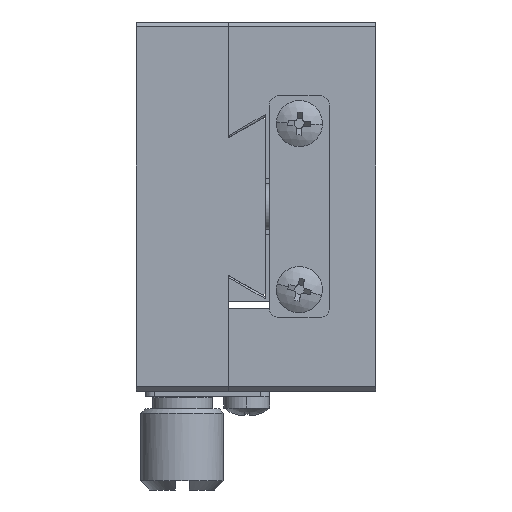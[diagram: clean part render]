
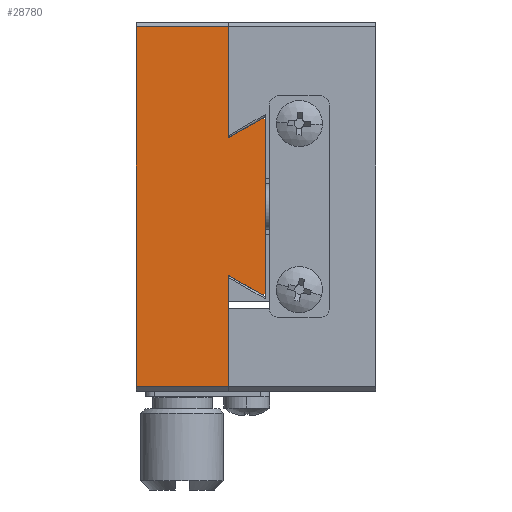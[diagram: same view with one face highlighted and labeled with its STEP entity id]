
A CAD part, left-side view. The second image highlights one B-rep face of the part: STEP entity #28780.
In plain terms, the highlighted planar face has unit normal (-1, 0, 0).
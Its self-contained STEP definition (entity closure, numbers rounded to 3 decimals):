
#38 = EDGE_LOOP ( 'NONE', ( #15353, #12433, #3700, #46786, #45221, #40383, #54166, #7454, #11179, #33708 ) ) ;
#855 = VERTEX_POINT ( 'NONE', #45563 ) ;
#1345 = AXIS2_PLACEMENT_3D ( 'NONE', #43646, #66359, #9346 ) ;
#1399 = VERTEX_POINT ( 'NONE', #36500 ) ;
#1484 = CARTESIAN_POINT ( 'NONE',  ( 0., 26., 0. ) ) ;
#2236 = LINE ( 'NONE', #25725, #58594 ) ;
#3700 = ORIENTED_EDGE ( 'NONE', *, *, #53328, .F. ) ;
#3889 = CARTESIAN_POINT ( 'NONE',  ( 0., 26., -39.5 ) ) ;
#7138 = DIRECTION ( 'NONE',  ( 0., 0.866, -0.5 ) ) ;
#7454 = ORIENTED_EDGE ( 'NONE', *, *, #70687, .T. ) ;
#9328 = CARTESIAN_POINT ( 'NONE',  ( 0., 16., -12.559 ) ) ;
#9346 = DIRECTION ( 'NONE',  ( 0., 0., -1. ) ) ;
#9637 = LINE ( 'NONE', #55119, #66531 ) ;
#10149 = LINE ( 'NONE', #32906, #33552 ) ;
#10917 = DIRECTION ( 'NONE',  ( 0., 1., 0. ) ) ;
#11179 = ORIENTED_EDGE ( 'NONE', *, *, #20682, .T. ) ;
#12433 = ORIENTED_EDGE ( 'NONE', *, *, #65455, .T. ) ;
#12521 = VECTOR ( 'NONE', #25964, 1000. ) ;
#15353 = ORIENTED_EDGE ( 'NONE', *, *, #41532, .T. ) ;
#19393 = EDGE_CURVE ( 'NONE', #27792, #19603, #69382, .T. ) ;
#19603 = VERTEX_POINT ( 'NONE', #9328 ) ;
#20132 = LINE ( 'NONE', #48860, #51183 ) ;
#20682 = EDGE_CURVE ( 'NONE', #29722, #27792, #20132, .T. ) ;
#25725 = CARTESIAN_POINT ( 'NONE',  ( 0., 12., -29.5 ) ) ;
#25964 = DIRECTION ( 'NONE',  ( 0., 0., 1. ) ) ;
#26250 = EDGE_CURVE ( 'NONE', #36056, #1399, #9637, .T. ) ;
#26627 = DIRECTION ( 'NONE',  ( 0., -1., 0. ) ) ;
#27137 = EDGE_CURVE ( 'NONE', #855, #60987, #32229, .T. ) ;
#27792 = VERTEX_POINT ( 'NONE', #47576 ) ;
#28714 = VECTOR ( 'NONE', #44731, 1000. ) ;
#28780 = ADVANCED_FACE ( 'NONE', ( #65630 ), #60075, .F. ) ;
#29722 = VERTEX_POINT ( 'NONE', #56399 ) ;
#32229 = LINE ( 'NONE', #3889, #64114 ) ;
#32906 = CARTESIAN_POINT ( 'NONE',  ( 0., 16., 0. ) ) ;
#33201 = VECTOR ( 'NONE', #7138, 1000. ) ;
#33552 = VECTOR ( 'NONE', #55625, 1000. ) ;
#33708 = ORIENTED_EDGE ( 'NONE', *, *, #19393, .T. ) ;
#33825 = EDGE_CURVE ( 'NONE', #1399, #40201, #2236, .T. ) ;
#33933 = LINE ( 'NONE', #34689, #28714 ) ;
#34045 = CARTESIAN_POINT ( 'NONE',  ( 0., 26., -0.5 ) ) ;
#34689 = CARTESIAN_POINT ( 'NONE',  ( 0., 16., 0. ) ) ;
#36056 = VERTEX_POINT ( 'NONE', #37345 ) ;
#36500 = CARTESIAN_POINT ( 'NONE',  ( 0., 12.433, -29.5 ) ) ;
#36593 = DIRECTION ( 'NONE',  ( 0., 1., 0. ) ) ;
#37113 = VERTEX_POINT ( 'NONE', #69514 ) ;
#37345 = CARTESIAN_POINT ( 'NONE',  ( 0., 16., -27.441 ) ) ;
#38959 = VECTOR ( 'NONE', #10917, 1000. ) ;
#39093 = EDGE_CURVE ( 'NONE', #60987, #36056, #10149, .T. ) ;
#40201 = VERTEX_POINT ( 'NONE', #51904 ) ;
#40383 = ORIENTED_EDGE ( 'NONE', *, *, #26250, .T. ) ;
#41287 = LINE ( 'NONE', #63998, #12521 ) ;
#41435 = CARTESIAN_POINT ( 'NONE',  ( 0., 12., -10.25 ) ) ;
#41532 = EDGE_CURVE ( 'NONE', #19603, #61552, #33933, .T. ) ;
#43646 = CARTESIAN_POINT ( 'NONE',  ( 0., 26., 0. ) ) ;
#44731 = DIRECTION ( 'NONE',  ( 0., 0., 1. ) ) ;
#45221 = ORIENTED_EDGE ( 'NONE', *, *, #39093, .T. ) ;
#45563 = CARTESIAN_POINT ( 'NONE',  ( 0., 26., -39.5 ) ) ;
#46786 = ORIENTED_EDGE ( 'NONE', *, *, #27137, .T. ) ;
#47576 = CARTESIAN_POINT ( 'NONE',  ( 0., 12.433, -10.5 ) ) ;
#48449 = DIRECTION ( 'NONE',  ( 0., -1., 0. ) ) ;
#48860 = CARTESIAN_POINT ( 'NONE',  ( 0., 12., -10.5 ) ) ;
#51183 = VECTOR ( 'NONE', #36593, 1000. ) ;
#51904 = CARTESIAN_POINT ( 'NONE',  ( 0., 12., -29.5 ) ) ;
#51934 = LINE ( 'NONE', #34045, #38959 ) ;
#52535 = CARTESIAN_POINT ( 'NONE',  ( 0., 16., -0.5 ) ) ;
#52557 = LINE ( 'NONE', #1484, #63421 ) ;
#53328 = EDGE_CURVE ( 'NONE', #855, #37113, #52557, .T. ) ;
#54166 = ORIENTED_EDGE ( 'NONE', *, *, #33825, .T. ) ;
#55119 = CARTESIAN_POINT ( 'NONE',  ( 0., 16., -27.441 ) ) ;
#55625 = DIRECTION ( 'NONE',  ( 0., 0., 1. ) ) ;
#56399 = CARTESIAN_POINT ( 'NONE',  ( 0., 12., -10.5 ) ) ;
#58594 = VECTOR ( 'NONE', #48449, 1000. ) ;
#60075 = PLANE ( 'NONE',  #1345 ) ;
#60987 = VERTEX_POINT ( 'NONE', #68266 ) ;
#61552 = VERTEX_POINT ( 'NONE', #52535 ) ;
#63421 = VECTOR ( 'NONE', #69663, 1000. ) ;
#63998 = CARTESIAN_POINT ( 'NONE',  ( 0., 12., -29.75 ) ) ;
#64114 = VECTOR ( 'NONE', #26627, 1000. ) ;
#65455 = EDGE_CURVE ( 'NONE', #61552, #37113, #51934, .T. ) ;
#65630 = FACE_OUTER_BOUND ( 'NONE', #38, .T. ) ;
#66359 = DIRECTION ( 'NONE',  ( 1., 0., 0. ) ) ;
#66531 = VECTOR ( 'NONE', #70763, 1000. ) ;
#68266 = CARTESIAN_POINT ( 'NONE',  ( 0., 16., -39.5 ) ) ;
#69382 = LINE ( 'NONE', #41435, #33201 ) ;
#69514 = CARTESIAN_POINT ( 'NONE',  ( 0., 26., -0.5 ) ) ;
#69663 = DIRECTION ( 'NONE',  ( 0., 0., 1. ) ) ;
#70687 = EDGE_CURVE ( 'NONE', #40201, #29722, #41287, .T. ) ;
#70763 = DIRECTION ( 'NONE',  ( 0., -0.866, -0.5 ) ) ;
